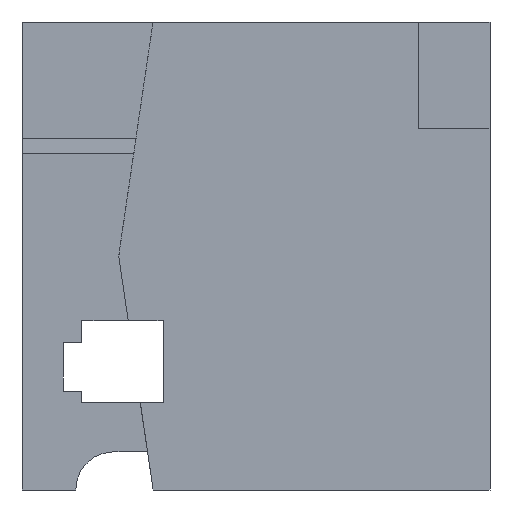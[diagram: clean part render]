
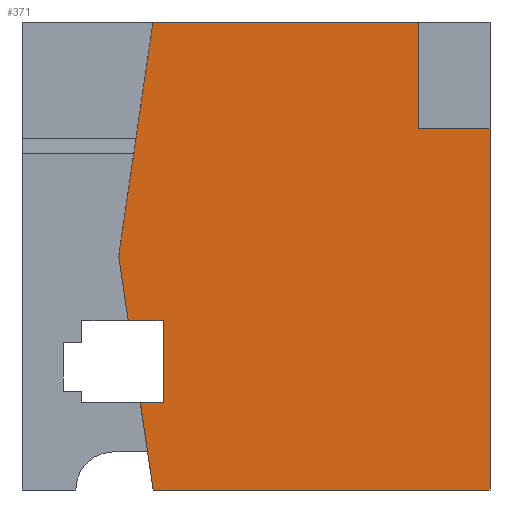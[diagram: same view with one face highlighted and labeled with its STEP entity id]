
A CAD part, front view. The second image highlights one B-rep face of the part: STEP entity #371.
In plain terms, the highlighted planar face has unit normal (0, -1, 0).
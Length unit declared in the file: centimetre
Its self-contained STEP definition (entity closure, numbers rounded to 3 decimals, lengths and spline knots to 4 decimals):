
#3 = ORIENTED_EDGE ( 'NONE', *, *, #961, .F. ) ;
#23 = ORIENTED_EDGE ( 'NONE', *, *, #1044, .F. ) ;
#26 = CARTESIAN_POINT ( 'NONE',  ( 301.6045, 0., 186.0536 ) ) ;
#32 = VERTEX_POINT ( 'NONE', #176 ) ;
#45 = VERTEX_POINT ( 'NONE', #1225 ) ;
#52 = DIRECTION ( 'NONE',  ( -0.145, 0., 0.989 ) ) ;
#86 = AXIS2_PLACEMENT_3D ( 'NONE', #341, #809, #997 ) ;
#94 = DIRECTION ( 'NONE',  ( 1., 0., 0. ) ) ;
#119 = ORIENTED_EDGE ( 'NONE', *, *, #1155, .F. ) ;
#148 = LINE ( 'NONE', #242, #364 ) ;
#150 = DIRECTION ( 'NONE',  ( 0., 0., 1. ) ) ;
#155 = VERTEX_POINT ( 'NONE', #202 ) ;
#157 = DIRECTION ( 'NONE',  ( -1., 0., 0. ) ) ;
#158 = LINE ( 'NONE', #1006, #839 ) ;
#176 = CARTESIAN_POINT ( 'NONE',  ( 847.9245, 0., 772.4113 ) ) ;
#202 = CARTESIAN_POINT ( 'NONE',  ( 206.6902, 0., 500. ) ) ;
#207 = ORIENTED_EDGE ( 'NONE', *, *, #627, .T. ) ;
#211 = CARTESIAN_POINT ( 'NONE',  ( 226.9428, 0., 362.0595 ) ) ;
#242 = CARTESIAN_POINT ( 'NONE',  ( 847.9245, 0., 772.4113 ) ) ;
#284 = VERTEX_POINT ( 'NONE', #610 ) ;
#314 = DIRECTION ( 'NONE',  ( 0., 0., -1. ) ) ;
#323 = LINE ( 'NONE', #1204, #1146 ) ;
#327 = VECTOR ( 'NONE', #776, 100. ) ;
#333 = EDGE_CURVE ( 'NONE', #32, #550, #148, .T. ) ;
#334 = CARTESIAN_POINT ( 'NONE',  ( 206.6902, 0., 500. ) ) ;
#337 = FACE_OUTER_BOUND ( 'NONE', #929, .T. ) ;
#341 = CARTESIAN_POINT ( 'NONE',  ( 0., 0., 1000. ) ) ;
#361 = CARTESIAN_POINT ( 'NONE',  ( 1000., 0., 0. ) ) ;
#364 = VECTOR ( 'NONE', #791, 100. ) ;
#368 = EDGE_CURVE ( 'NONE', #45, #714, #323, .T. ) ;
#371 = ADVANCED_FACE ( 'NONE', ( #337 ), #910, .F. ) ;
#383 = LINE ( 'NONE', #593, #815 ) ;
#431 = LINE ( 'NONE', #806, #684 ) ;
#441 = DIRECTION ( 'NONE',  ( 1., 0., 0. ) ) ;
#472 = ORIENTED_EDGE ( 'NONE', *, *, #655, .F. ) ;
#509 = LINE ( 'NONE', #334, #327 ) ;
#550 = VERTEX_POINT ( 'NONE', #628 ) ;
#586 = EDGE_CURVE ( 'NONE', #1194, #767, #633, .T. ) ;
#593 = CARTESIAN_POINT ( 'NONE',  ( 0., 0., 0. ) ) ;
#610 = CARTESIAN_POINT ( 'NONE',  ( 1000., 0., 772.4113 ) ) ;
#627 = EDGE_CURVE ( 'NONE', #45, #1136, #383, .T. ) ;
#628 = CARTESIAN_POINT ( 'NONE',  ( 847.9245, 0., 1000. ) ) ;
#633 = LINE ( 'NONE', #1015, #943 ) ;
#655 = EDGE_CURVE ( 'NONE', #32, #284, #850, .T. ) ;
#684 = VECTOR ( 'NONE', #717, 100. ) ;
#703 = VECTOR ( 'NONE', #94, 100. ) ;
#706 = LINE ( 'NONE', #901, #779 ) ;
#711 = CARTESIAN_POINT ( 'NONE',  ( 128.0536, 0., 186.0536 ) ) ;
#714 = VERTEX_POINT ( 'NONE', #765 ) ;
#717 = DIRECTION ( 'NONE',  ( 0.145, 0., 0.989 ) ) ;
#742 = CARTESIAN_POINT ( 'NONE',  ( 0., 0., 1000. ) ) ;
#746 = VERTEX_POINT ( 'NONE', #774 ) ;
#749 = ORIENTED_EDGE ( 'NONE', *, *, #911, .F. ) ;
#765 = CARTESIAN_POINT ( 'NONE',  ( 252.7843, 0., 186.0536 ) ) ;
#767 = VERTEX_POINT ( 'NONE', #211 ) ;
#774 = CARTESIAN_POINT ( 'NONE',  ( 280.101, 0., 1000. ) ) ;
#776 = DIRECTION ( 'NONE',  ( -0.145, 0., 0.989 ) ) ;
#779 = VECTOR ( 'NONE', #314, 100. ) ;
#791 = DIRECTION ( 'NONE',  ( 0., 0., 1. ) ) ;
#794 = LINE ( 'NONE', #711, #983 ) ;
#806 = CARTESIAN_POINT ( 'NONE',  ( 280.101, 0., 1000. ) ) ;
#809 = DIRECTION ( 'NONE',  ( 0., 1., 0. ) ) ;
#814 = ORIENTED_EDGE ( 'NONE', *, *, #1203, .F. ) ;
#815 = VECTOR ( 'NONE', #866, 100. ) ;
#839 = VECTOR ( 'NONE', #150, 100. ) ;
#850 = LINE ( 'NONE', #1139, #703 ) ;
#852 = VERTEX_POINT ( 'NONE', #26 ) ;
#866 = DIRECTION ( 'NONE',  ( 1., 0., 0. ) ) ;
#901 = CARTESIAN_POINT ( 'NONE',  ( 1000., 0., 1000. ) ) ;
#910 = PLANE ( 'NONE',  #86 ) ;
#911 = EDGE_CURVE ( 'NONE', #714, #852, #794, .T. ) ;
#929 = EDGE_LOOP ( 'NONE', ( #1035, #1172, #814, #749, #939, #207, #23, #472, #932, #119, #3 ) ) ;
#932 = ORIENTED_EDGE ( 'NONE', *, *, #333, .T. ) ;
#939 = ORIENTED_EDGE ( 'NONE', *, *, #368, .F. ) ;
#943 = VECTOR ( 'NONE', #157, 100. ) ;
#961 = EDGE_CURVE ( 'NONE', #155, #746, #431, .T. ) ;
#983 = VECTOR ( 'NONE', #1095, 100. ) ;
#997 = DIRECTION ( 'NONE',  ( 0., 0., 1. ) ) ;
#1006 = CARTESIAN_POINT ( 'NONE',  ( 301.6045, 0., 186.0536 ) ) ;
#1015 = CARTESIAN_POINT ( 'NONE',  ( 128.0536, 0., 362.0595 ) ) ;
#1031 = EDGE_CURVE ( 'NONE', #767, #155, #509, .T. ) ;
#1035 = ORIENTED_EDGE ( 'NONE', *, *, #1031, .F. ) ;
#1044 = EDGE_CURVE ( 'NONE', #284, #1136, #706, .T. ) ;
#1087 = VECTOR ( 'NONE', #441, 100. ) ;
#1095 = DIRECTION ( 'NONE',  ( 1., 0., 0. ) ) ;
#1107 = CARTESIAN_POINT ( 'NONE',  ( 301.6045, 0., 362.0595 ) ) ;
#1136 = VERTEX_POINT ( 'NONE', #361 ) ;
#1139 = CARTESIAN_POINT ( 'NONE',  ( 847.9245, 0., 772.4113 ) ) ;
#1146 = VECTOR ( 'NONE', #52, 100. ) ;
#1155 = EDGE_CURVE ( 'NONE', #746, #550, #1198, .T. ) ;
#1172 = ORIENTED_EDGE ( 'NONE', *, *, #586, .F. ) ;
#1194 = VERTEX_POINT ( 'NONE', #1107 ) ;
#1198 = LINE ( 'NONE', #742, #1087 ) ;
#1203 = EDGE_CURVE ( 'NONE', #852, #1194, #158, .T. ) ;
#1204 = CARTESIAN_POINT ( 'NONE',  ( 206.6902, 0., 500. ) ) ;
#1225 = CARTESIAN_POINT ( 'NONE',  ( 280.101, 0., 0. ) ) ;
